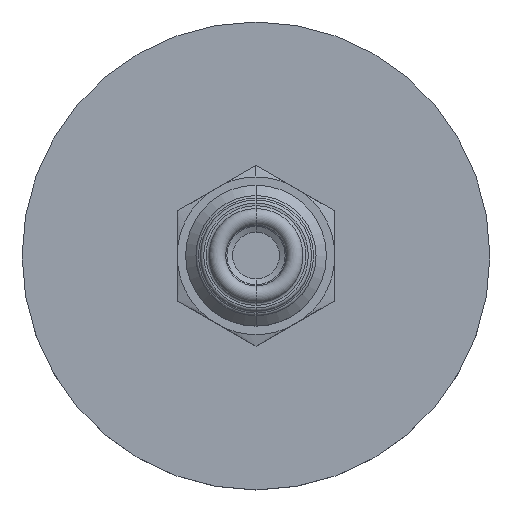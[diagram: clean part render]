
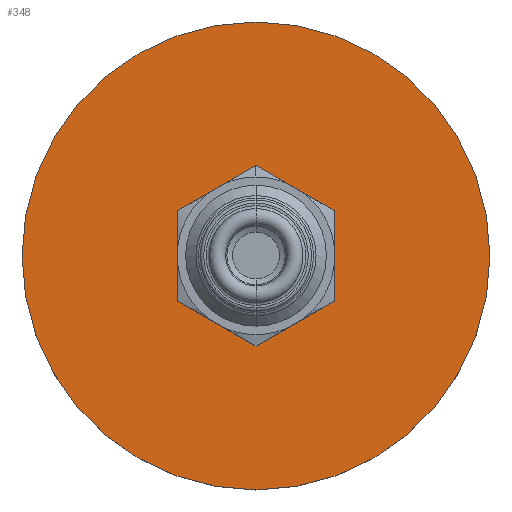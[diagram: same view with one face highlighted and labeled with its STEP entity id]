
A CAD part, top view. The second image highlights one B-rep face of the part: STEP entity #348.
In plain terms, the highlighted planar face has unit normal (0, 0, 1).
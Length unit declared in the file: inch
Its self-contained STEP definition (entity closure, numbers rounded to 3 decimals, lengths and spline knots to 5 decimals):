
#60 = VERTEX_POINT ( 'NONE', #593 ) ;
#62 = EDGE_CURVE ( 'NONE', #102, #60, #511, .T. ) ;
#102 = VERTEX_POINT ( 'NONE', #674 ) ;
#123 = VERTEX_POINT ( 'NONE', #724 ) ;
#125 = EDGE_CURVE ( 'NONE', #60, #123, #512, .T. ) ;
#204 = EDGE_CURVE ( 'NONE', #269, #250, #909, .T. ) ;
#214 = VERTEX_POINT ( 'NONE', #860 ) ;
#216 = EDGE_CURVE ( 'NONE', #123, #214, #851, .T. ) ;
#246 = EDGE_CURVE ( 'NONE', #250, #102, #978, .T. ) ;
#250 = VERTEX_POINT ( 'NONE', #985 ) ;
#269 = VERTEX_POINT ( 'NONE', #1008 ) ;
#271 = EDGE_CURVE ( 'NONE', #214, #269, #954, .T. ) ;
#347 = ORIENTED_EDGE ( 'NONE', *, *, #216, .T. ) ;
#348 = ADVANCED_FACE ( 'NONE', ( #1315, #1314 ), #1313, .F. ) ;
#349 = EDGE_LOOP ( 'NONE', ( #353, #388 ) ) ;
#353 = ORIENTED_EDGE ( 'NONE', *, *, #1522, .T. ) ;
#388 = ORIENTED_EDGE ( 'NONE', *, *, #405, .T. ) ;
#393 = ORIENTED_EDGE ( 'NONE', *, *, #204, .T. ) ;
#395 = ORIENTED_EDGE ( 'NONE', *, *, #125, .T. ) ;
#396 = EDGE_LOOP ( 'NONE', ( #406, #439, #395, #347, #441, #393 ) ) ;
#405 = EDGE_CURVE ( 'NONE', #1520, #1523, #1238, .T. ) ;
#406 = ORIENTED_EDGE ( 'NONE', *, *, #246, .T. ) ;
#439 = ORIENTED_EDGE ( 'NONE', *, *, #62, .T. ) ;
#441 = ORIENTED_EDGE ( 'NONE', *, *, #271, .T. ) ;
#499 = CARTESIAN_POINT ( 'NONE',  ( 0., -0.36084, -0.923 ) ) ;
#511 = LINE ( 'NONE', #499, #573 ) ;
#512 = LINE ( 'NONE', #575, #763 ) ;
#573 = VECTOR ( 'NONE', #576, 39.37008 ) ;
#575 = CARTESIAN_POINT ( 'NONE',  ( -0.3125, -0.18042, -0.923 ) ) ;
#576 = DIRECTION ( 'NONE',  ( -0.866, 0.5, 0. ) ) ;
#593 = CARTESIAN_POINT ( 'NONE',  ( -0.3125, -0.18042, -0.923 ) ) ;
#674 = CARTESIAN_POINT ( 'NONE',  ( 0., -0.36084, -0.923 ) ) ;
#724 = CARTESIAN_POINT ( 'NONE',  ( -0.3125, 0.18042, -0.923 ) ) ;
#763 = VECTOR ( 'NONE', #768, 39.37008 ) ;
#768 = DIRECTION ( 'NONE',  ( 0., 1., 0. ) ) ;
#849 = DIRECTION ( 'NONE',  ( 0.866, 0.5, 0. ) ) ;
#850 = CARTESIAN_POINT ( 'NONE',  ( -0.3125, 0.18042, -0.923 ) ) ;
#851 = LINE ( 'NONE', #850, #858 ) ;
#858 = VECTOR ( 'NONE', #849, 39.37008 ) ;
#860 = CARTESIAN_POINT ( 'NONE',  ( 0., 0.36084, -0.923 ) ) ;
#901 = DIRECTION ( 'NONE',  ( 0., -1., 0. ) ) ;
#902 = VECTOR ( 'NONE', #901, 39.37008 ) ;
#903 = CARTESIAN_POINT ( 'NONE',  ( 0.3125, 0.18042, -0.923 ) ) ;
#909 = LINE ( 'NONE', #903, #902 ) ;
#952 = VECTOR ( 'NONE', #970, 39.37008 ) ;
#953 = CARTESIAN_POINT ( 'NONE',  ( 0., 0.36084, -0.923 ) ) ;
#954 = LINE ( 'NONE', #953, #952 ) ;
#970 = DIRECTION ( 'NONE',  ( 0.866, -0.5, 0. ) ) ;
#976 = VECTOR ( 'NONE', #996, 39.37008 ) ;
#977 = CARTESIAN_POINT ( 'NONE',  ( 0.3125, -0.18042, -0.923 ) ) ;
#978 = LINE ( 'NONE', #977, #976 ) ;
#985 = CARTESIAN_POINT ( 'NONE',  ( 0.3125, -0.18042, -0.923 ) ) ;
#996 = DIRECTION ( 'NONE',  ( -0.866, -0.5, 0. ) ) ;
#1008 = CARTESIAN_POINT ( 'NONE',  ( 0.3125, 0.18042, -0.923 ) ) ;
#1235 = DIRECTION ( 'NONE',  ( 1., 0., 0. ) ) ;
#1236 = DIRECTION ( 'NONE',  ( 0., 0., 1. ) ) ;
#1237 = AXIS2_PLACEMENT_3D ( 'NONE', #1243, #1236, #1235 ) ;
#1238 = CIRCLE ( 'NONE', #1237, 0.935 ) ;
#1243 = CARTESIAN_POINT ( 'NONE',  ( 0., 0., -0.923 ) ) ;
#1309 = DIRECTION ( 'NONE',  ( -1., 0., 0. ) ) ;
#1310 = DIRECTION ( 'NONE',  ( 0., 0., -1. ) ) ;
#1311 = CARTESIAN_POINT ( 'NONE',  ( 0., 0., -0.923 ) ) ;
#1312 = AXIS2_PLACEMENT_3D ( 'NONE', #1311, #1310, #1309 ) ;
#1313 = PLANE ( 'NONE',  #1312 ) ;
#1314 = FACE_BOUND ( 'NONE', #396, .T. ) ;
#1315 = FACE_OUTER_BOUND ( 'NONE', #349, .T. ) ;
#1520 = VERTEX_POINT ( 'NONE', #1723 ) ;
#1522 = EDGE_CURVE ( 'NONE', #1523, #1520, #1722, .T. ) ;
#1523 = VERTEX_POINT ( 'NONE', #1676 ) ;
#1676 = CARTESIAN_POINT ( 'NONE',  ( 0.935, 0., -0.923 ) ) ;
#1677 = DIRECTION ( 'NONE',  ( 1., 0., 0. ) ) ;
#1678 = DIRECTION ( 'NONE',  ( 0., 0., 1. ) ) ;
#1679 = CARTESIAN_POINT ( 'NONE',  ( 0., 0., -0.923 ) ) ;
#1680 = AXIS2_PLACEMENT_3D ( 'NONE', #1679, #1678, #1677 ) ;
#1722 = CIRCLE ( 'NONE', #1680, 0.935 ) ;
#1723 = CARTESIAN_POINT ( 'NONE',  ( -0.935, 0., -0.923 ) ) ;
